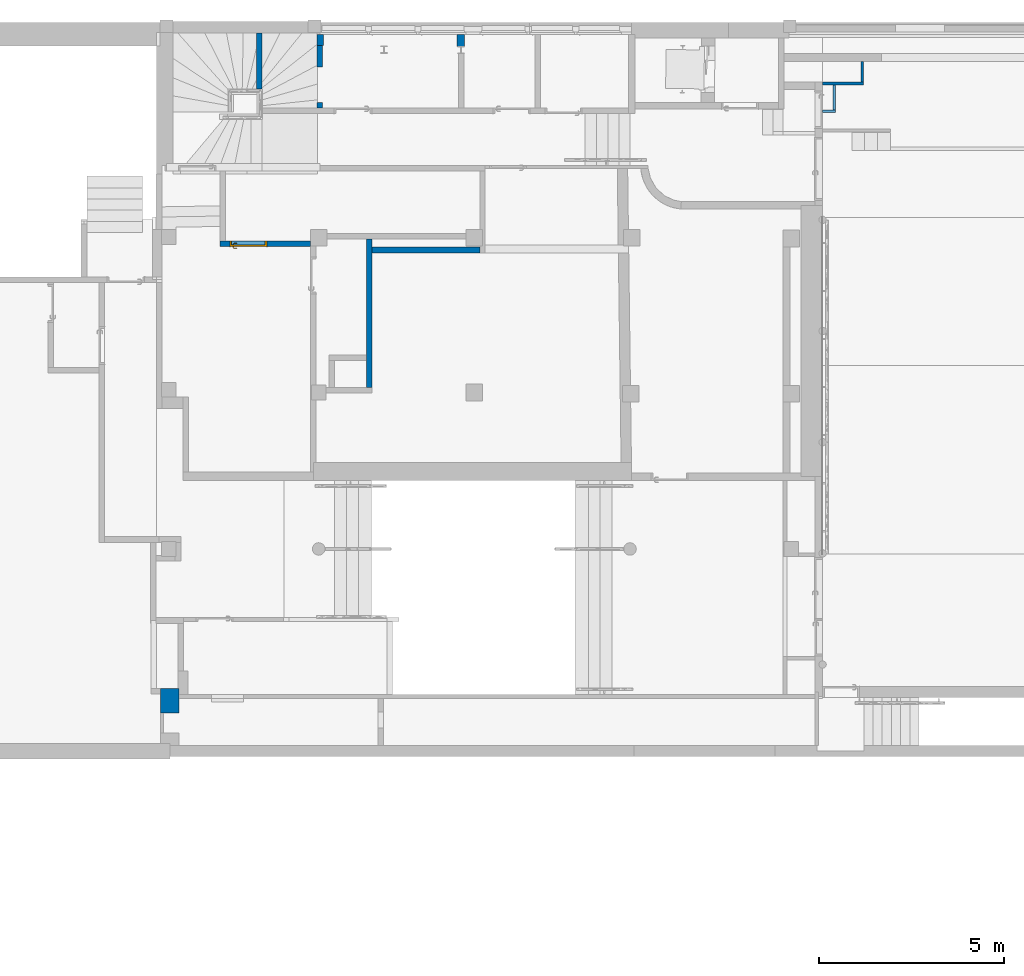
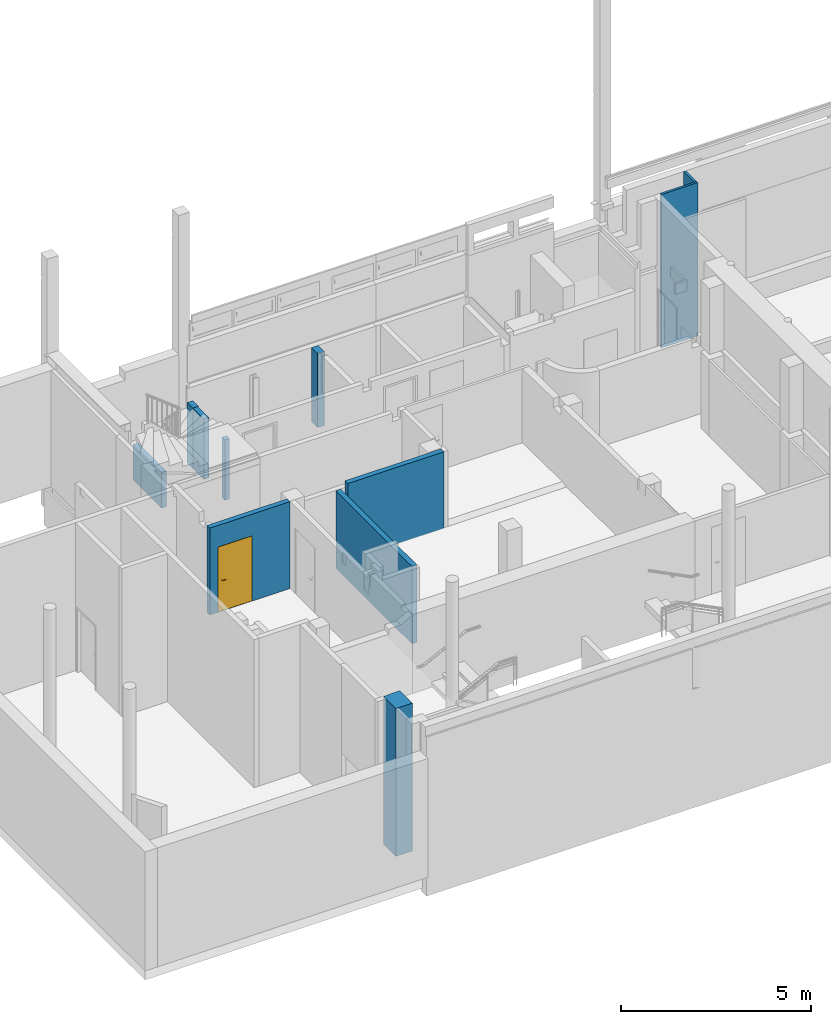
# One storey, part 6 of 39: 13 walls, 1 door, 1 opening.
"""IFC4 building model written with IfcOpenShell, lengths in metres."""

from ifc_helpers import new_model, entity, si_unit, converted_unit, derived_unit, direction, frame, origin, place, context, subcontext, project, spatial, indexed_curve, outline, extrude, polygons, source, transform, mapped, material, material_list, layer, layer_set, constituent, constituent_set, type_object, type_shapes, element, fill, save


model = new_model("IFC4")

# Units and contexts
model_context = context("Model", 3, precision=1e-05, world=origin(), true_north=direction((6.12303176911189e-17, 1.0)))
body_context = subcontext(model_context, "Body", "Model", "MODEL_VIEW")
ifc_project = project(units=[si_unit("LENGTHUNIT", "METRE"), si_unit("AREAUNIT", "SQUARE_METRE"), si_unit("VOLUMEUNIT", "CUBIC_METRE"), converted_unit("PLANEANGLEUNIT", "DEGREE", entity("IfcRatioMeasure", 0.0174532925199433), si_unit("PLANEANGLEUNIT", "RADIAN"), dimensions=[0, 0, 0, 0, 0, 0, 0]), si_unit("MASSUNIT", "GRAM", prefix="KILO"), derived_unit("MASSDENSITYUNIT", [(si_unit("MASSUNIT", "GRAM", prefix="KILO"), 1), (si_unit("LENGTHUNIT", "METRE"), -3)]), derived_unit("MOMENTOFINERTIAUNIT", [(si_unit("LENGTHUNIT", "METRE"), 4)]), si_unit("TIMEUNIT", "SECOND"), si_unit("FREQUENCYUNIT", "HERTZ"), si_unit("THERMODYNAMICTEMPERATUREUNIT", "DEGREE_CELSIUS"), derived_unit("THERMALTRANSMITTANCEUNIT", [(si_unit("MASSUNIT", "GRAM", prefix="KILO"), 1), (si_unit("THERMODYNAMICTEMPERATUREUNIT", "KELVIN"), -1), (si_unit("TIMEUNIT", "SECOND"), -3)]), derived_unit("VOLUMETRICFLOWRATEUNIT", [(si_unit("LENGTHUNIT", "METRE"), 3), (si_unit("TIMEUNIT", "SECOND"), -1)]), si_unit("ELECTRICCURRENTUNIT", "AMPERE"), si_unit("ELECTRICVOLTAGEUNIT", "VOLT"), si_unit("POWERUNIT", "WATT"), si_unit("FORCEUNIT", "NEWTON", prefix="KILO"), si_unit("ILLUMINANCEUNIT", "LUX"), si_unit("LUMINOUSFLUXUNIT", "LUMEN"), si_unit("LUMINOUSINTENSITYUNIT", "CANDELA"), derived_unit("USERDEFINED", [(si_unit("MASSUNIT", "GRAM", prefix="KILO"), -1), (si_unit("LENGTHUNIT", "METRE"), -2), (si_unit("TIMEUNIT", "SECOND"), 3), (si_unit("LUMINOUSFLUXUNIT", "LUMEN"), 1)]), derived_unit("LINEARVELOCITYUNIT", [(si_unit("LENGTHUNIT", "METRE"), 1), (si_unit("TIMEUNIT", "SECOND"), -1)]), si_unit("PRESSUREUNIT", "PASCAL"), derived_unit("USERDEFINED", [(si_unit("LENGTHUNIT", "METRE"), -2), (si_unit("MASSUNIT", "GRAM", prefix="KILO"), 1), (si_unit("TIMEUNIT", "SECOND"), -2)]), derived_unit("LINEARFORCEUNIT", [(si_unit("MASSUNIT", "GRAM", prefix="KILO"), 1), (si_unit("LENGTHUNIT", "METRE"), 1), (si_unit("TIMEUNIT", "SECOND"), -2), (si_unit("LENGTHUNIT", "METRE"), -1)]), derived_unit("PLANARFORCEUNIT", [(si_unit("MASSUNIT", "GRAM", prefix="KILO"), 1), (si_unit("LENGTHUNIT", "METRE"), 1), (si_unit("TIMEUNIT", "SECOND"), -2), (si_unit("LENGTHUNIT", "METRE"), -2)])], contexts=[model_context])

# Site, building, storey
site_placement = place(None, origin())
site = spatial("IfcSite", under=ifc_project, at=site_placement, Name="Default", CompositionType="ELEMENT")
building_placement = place(site_placement, origin())
building = spatial("IfcBuilding", under=site, at=building_placement, Name="HOTEL CONSULAIRE BOULOGNE SUR MER", CompositionType="ELEMENT")
storey_placement = place(building_placement, frame((0.0, 0.0, -5.02343668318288)))
storey = spatial("IfcBuildingStorey", under=building, at=storey_placement, Name="SS3", CompositionType="ELEMENT", Elevation=-5.02343668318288)

# Walls
ifc_material_1 = material(Name="Mur par défaut", Category="Divers")
ifc_layer_1 = layer(ifc_material_1, 0.07, Name="Mur par défaut", Category="Divers")
ifc_layer_set_1 = layer_set([ifc_layer_1], Name="Mur de base:Générique - Int. 70 mm")
wall_type_1 = type_object("IfcWallType", Name="Mur de base:Générique - Int. 70 mm", PredefinedType="NOTDEFINED", material=ifc_layer_set_1)
wall_1_placement = place(storey_placement, frame((12.3592268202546, -11.4576796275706, -0.179999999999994)))
element("IfcWall", 1, at=wall_1_placement, inside=storey, type_object=wall_type_1, material=ifc_layer_set_1, Name="Mur de base:Générique - Int. 70 mm", ObjectType="Mur de base:Générique - Int. 70 mm", PredefinedType="NOTDEFINED", context=body_context, shape_type="SweptSolid", body=[
    extrude(outline(indexed_curve([(1.10852915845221, 0.0350000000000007), (-1.36759053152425e-16, 0.0350000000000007), (1.36759053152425e-16, -0.0350000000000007), (1.10852915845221, -0.0350000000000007), (1.10852915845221, 0.0350000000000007)], self_intersect=False)), origin(), (0.0, 0.0, 1.0), 4.933436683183),
])
wall_2_placement = place(storey_placement, frame((13.4327559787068, -11.4226796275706, -0.179999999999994), z_axis=(0.0, 0.0, 1.0), x_axis=(0.0, 1.0, 0.0)))
element("IfcWall", 2, at=wall_2_placement, inside=storey, type_object=wall_type_1, material=ifc_layer_set_1, Name="Mur de base:Générique - Int. 70 mm", ObjectType="Mur de base:Générique - Int. 70 mm", PredefinedType="NOTDEFINED", context=body_context, shape_type="SweptSolid", body=[
    extrude(outline(indexed_curve([(0.554366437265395, 0.035), (-9.1758414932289e-17, 0.0350000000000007), (9.1758414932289e-17, -0.0350000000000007), (0.554366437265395, -0.0350000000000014), (0.554366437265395, 0.035)], self_intersect=False)), origin(), (0.0, 0.0, 1.0), 4.933436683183),
])
wall_3_placement = place(storey_placement, frame((12.3592268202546, -12.2016796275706, 1.991)))
element("IfcWall", 3, at=wall_3_placement, inside=storey, type_object=wall_type_1, material=ifc_layer_set_1, Name="Mur de base:Générique - Int. 70 mm", ObjectType="Mur de base:Générique - Int. 70 mm", PredefinedType="NOTDEFINED", context=body_context, shape_type="SweptSolid", body=[
    extrude(outline(indexed_curve([(0.354637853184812, 0.0350000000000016), (-8.87078969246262e-17, 0.0350000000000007), (8.87078969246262e-17, -0.0350000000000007), (0.354637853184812, -0.0349999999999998), (0.354637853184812, 0.0350000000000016)], self_intersect=False)), origin(), (0.0, 0.0, 1.0), 0.328999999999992),
])
wall_4_placement = place(storey_placement, frame((12.6788646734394, -12.1666796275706, 1.991), z_axis=(0.0, 0.0, 1.0), x_axis=(0.0, 1.0, 0.0)))
element("IfcWall", 4, at=wall_4_placement, inside=storey, type_object=wall_type_1, material=ifc_layer_set_1, Name="Mur de base:Générique - Int. 70 mm", ObjectType="Mur de base:Générique - Int. 70 mm", PredefinedType="NOTDEFINED", context=body_context, shape_type="SweptSolid", body=[
    extrude(outline(indexed_curve([(0.674000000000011, 0.0350000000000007), (0.0, 0.0350000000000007), (0.0, -0.0350000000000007), (0.674000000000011, -0.0350000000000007), (0.674000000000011, 0.0350000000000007)], self_intersect=False)), origin(), (0.0, 0.0, 1.0), 0.328999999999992),
])
ifc_layer_2 = layer(ifc_material_1, 0.18, Name="Mur par défaut", Category="Divers")
ifc_layer_set_2 = layer_set([ifc_layer_2], Name="Mur de base:Générique - Int.180")
wall_type_2 = type_object("IfcWallType", Name="Mur de base:Générique - Int.180", PredefinedType="NOTDEFINED", material=ifc_layer_set_2)
wall_5_placement = place(storey_placement, frame((-1.18887161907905, -10.43532416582, 0.0800000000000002), z_axis=(0.0, 0.0, 1.0), x_axis=(0.0, 1.0, 0.0)))
element("IfcWall", 5, at=wall_5_placement, inside=storey, type_object=wall_type_2, material=ifc_layer_set_2, Name="Mur de base:Générique - Int.180", ObjectType="Mur de base:Générique - Int.180", PredefinedType="NOTDEFINED", context=body_context, shape_type="SweptSolid", body=[
    extrude(outline(indexed_curve([(0.300999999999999, 0.0900000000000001), (-1.4916926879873e-16, 0.0900000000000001), (1.4916926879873e-16, -0.09), (0.300999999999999, -0.0899999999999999), (0.300999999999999, 0.0900000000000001)], self_intersect=False)), origin(), (0.0, 0.0, 1.0), 1.93999999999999),
])

# Wall, opening, door
ifc_layer_3 = layer(ifc_material_1, 0.15, Name="Mur par défaut", Category="Divers")
ifc_layer_set_3 = layer_set([ifc_layer_3], Name="Mur de base:Générique - Int. 150 mm")
wall_type_3 = type_object("IfcWallType", Name="Mur de base:Générique - Int. 150 mm", PredefinedType="NOTDEFINED", material=ifc_layer_set_3)
wall_6_placement = place(storey_placement, frame((-1.44715893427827, -15.7832334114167, -0.43), z_axis=(0.0, 0.0, 1.0), x_axis=(-1.0, 0.0, 0.0)))
wall_6 = element("IfcWall", 6, at=wall_6_placement, inside=storey, type_object=wall_type_3, material=ifc_layer_set_3, Name="Mur de base:Générique - Int. 150 mm", ObjectType="Mur de base:Générique - Int. 150 mm", PredefinedType="NOTDEFINED", context=body_context, shape_type="Tessellation", body=[
    polygons([(2.446, -0.0750000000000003, 0.0), (2.446, -0.0750000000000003, 2.79499999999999), (2.296, -0.0750000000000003, 2.79499999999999), (0.0066642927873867, -0.0750000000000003, 2.79499999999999), (0.0066642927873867, -0.0750000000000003, 0.0), (2.296, -0.0750000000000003, 0.0), (1.178, -0.0750000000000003, 0.00999999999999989), (1.178, -0.0750000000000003, 2.085), (2.178, -0.0750000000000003, 2.085), (2.178, -0.0750000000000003, 0.00999999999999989), (2.446, 0.0750000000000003, 0.0), (1.34315505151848e-16, 0.0750000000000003, 0.0), (1.34315505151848e-16, 0.0750000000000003, 2.79499999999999), (2.446, 0.0750000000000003, 2.79499999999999), (1.178, 0.0750000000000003, 2.085), (1.178, 0.0750000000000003, 0.00999999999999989), (2.178, 0.0750000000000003, 0.00999999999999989), (2.178, 0.0750000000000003, 2.085), (0.00666429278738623, 0.0576763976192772, 0.0), (1.95681071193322e-16, 0.0576763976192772, 0.0), (1.95681071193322e-16, 0.0576763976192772, 2.79499999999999), (0.00666429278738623, 0.0576763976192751, 2.79499999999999)], [[[5, 6, 1, 2, 3, 4], [8, 9, 10, 7]], [[19, 22, 21, 20]], [[11, 12, 13, 14], [18, 15, 16, 17]], [[6, 5, 19, 20, 12, 11, 1]], [[8, 15, 18, 9]], [[3, 2, 14, 13, 21, 22, 4]], [[7, 10, 17, 16]], [[2, 1, 11, 14]], [[7, 16, 15, 8]], [[9, 18, 17, 10]], [[12, 20, 21, 13]], [[5, 4, 22, 19]]], closed=True),
])
opening_placement = place(wall_6_placement, frame((1.178, -0.0749999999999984, 0.00999999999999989)))
opening = element("IfcOpeningElement", 7, at=opening_placement, cuts=wall_6, Name="Int. Simple:PP0.93x2.04:1", ObjectType="Opening", PredefinedType="OPENING", context=body_context, shape_type="SweptSolid", body=[
    extrude(outline(indexed_curve([(0.0, -2.78698535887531e-30), (2.075, -2.78698535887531e-30), (2.075, 1.0), (0.0, 1.0), (0.0, -2.78698535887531e-30)], self_intersect=False)), frame((0.0, 0.0, 0.0), z_axis=(0.0, 1.0, 0.0), x_axis=(0.0, 0.0, 1.0)), (0.0, 0.0, 1.0), 0.15),
])
ifc_material_2 = material(Name="Finition Peinture - Blanc satiné", Category="Peinture")
ifc_constituent_1 = constituent(ifc_material_2, Name="Finition Peinture - Blanc satiné", Category="Matériaux")
ifc_material_3 = material(Name="Bois - Panneau de porte", Category="Bois")
ifc_constituent_2 = constituent(ifc_material_3, Name="Bois - Panneau de porte", Category="Matériaux")
ifc_material_4 = material(Name="Bois - Cadre de porte", Category="Bois")
ifc_constituent_3 = constituent(ifc_material_4, Name="Bois - Cadre de porte", Category="Matériaux")
ifc_constituent_set = constituent_set(constituents=[ifc_constituent_1, ifc_constituent_2, ifc_constituent_3], Name="MaterialConstituentSet")
ifc_material_list = material_list([ifc_material_4, ifc_material_4, ifc_material_2, ifc_material_3])
door_type = type_object("IfcDoorType", Name="Int. Simple:PP0.93x2.04", OperationType="NOTDEFINED", PredefinedType="DOOR", material=ifc_material_list)
shared_shape = source(origin(), body_context, "Body", "Tessellation", [
    polygons([(0.075000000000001, -0.00500000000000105, 0.870000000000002), (0.0846472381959, -0.00500000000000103, 0.866003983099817), (0.0950000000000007, -0.00500000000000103, 0.86464101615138), (0.105352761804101, -0.00500000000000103, 0.866003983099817), (0.115, -0.00500000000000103, 0.870000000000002), (0.114999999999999, -0.00500000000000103, 1.08), (0.1053527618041, -0.00500000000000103, 1.08399601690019), (0.0949999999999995, -0.00500000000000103, 1.08535898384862), (0.0846472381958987, -0.00500000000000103, 1.08399601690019), (0.0749999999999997, -0.00500000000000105, 1.08), (0.0749999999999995, -1.04902753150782e-15, 0.870000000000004), (0.0749999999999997, -1.04902753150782e-15, 1.08), (0.0846472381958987, -1.04902753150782e-15, 1.08399601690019), (0.0949999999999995, -1.04056763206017e-15, 1.08535898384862), (0.1053527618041, -1.04056763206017e-15, 1.08399601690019), (0.114999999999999, -1.03210773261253e-15, 1.08), (0.115, -1.03210773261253e-15, 0.870000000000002), (0.105352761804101, -1.04056763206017e-15, 0.866003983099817), (0.0950000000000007, -1.04056763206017e-15, 0.86464101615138), (0.0846472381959, -1.04902753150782e-15, 0.866003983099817)], [[[4, 5, 6, 7, 8, 9, 10, 1, 2, 3]], [[15, 16, 17, 18, 19, 20, 11, 12, 13, 14]], [[11, 20, 2, 1]], [[2, 20, 19, 3]], [[19, 18, 4, 3]], [[18, 17, 5, 4]], [[6, 5, 17, 16]], [[16, 15, 7, 6]], [[7, 15, 14, 8]], [[14, 13, 9, 8]], [[13, 12, 10, 9]], [[1, 10, 12, 11]]], closed=True),
    polygons([(0.114999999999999, 0.0399999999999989, 1.08), (0.1053527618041, 0.0399999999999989, 1.08399601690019), (0.0949999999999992, 0.0399999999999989, 1.08535898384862), (0.0846472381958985, 0.0399999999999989, 1.08399601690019), (0.0749999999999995, 0.0399999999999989, 1.08), (0.075000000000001, 0.0399999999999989, 0.870000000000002), (0.0846472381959, 0.0399999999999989, 0.866003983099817), (0.0950000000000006, 0.0399999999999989, 0.86464101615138), (0.105352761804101, 0.0399999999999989, 0.866003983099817), (0.115, 0.0399999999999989, 0.870000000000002), (0.114999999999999, 0.044999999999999, 1.08), (0.115, 0.044999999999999, 0.870000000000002), (0.105352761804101, 0.0449999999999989, 0.866003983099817), (0.0950000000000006, 0.0449999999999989, 0.86464101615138), (0.0846472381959, 0.0449999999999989, 0.866003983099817), (0.0749999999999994, 0.0449999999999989, 0.870000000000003), (0.0749999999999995, 0.0449999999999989, 1.08), (0.0846472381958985, 0.0449999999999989, 1.08399601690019), (0.0949999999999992, 0.0449999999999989, 1.08535898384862), (0.1053527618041, 0.0449999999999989, 1.08399601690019)], [[[9, 10, 1, 2, 3, 4, 5, 6, 7, 8]], [[20, 11, 12, 13, 14, 15, 16, 17, 18, 19]], [[11, 20, 2, 1]], [[2, 20, 19, 3]], [[19, 18, 4, 3]], [[18, 17, 5, 4]], [[6, 5, 17, 16]], [[16, 15, 7, 6]], [[7, 15, 14, 8]], [[14, 13, 9, 8]], [[13, 12, 10, 9]], [[1, 10, 12, 11]]], closed=True),
    polygons([(0.0889999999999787, -0.00500000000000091, 1.007), (0.0929747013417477, -0.00500000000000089, 1.00778044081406), (0.097025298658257, -0.00500000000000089, 1.00778044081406), (0.101000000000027, -0.00500000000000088, 1.00699999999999), (0.101000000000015, -0.00500000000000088, 0.993000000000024), (0.0970252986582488, -0.00500000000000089, 0.992219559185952), (0.0929747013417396, -0.00500000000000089, 0.99221955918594), (0.0889999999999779, -0.00500000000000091, 0.992999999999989), (0.0889999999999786, -0.0326509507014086, 1.007), (0.0929747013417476, -0.0310045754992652, 1.00778044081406), (0.0970252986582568, -0.0293267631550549, 1.00778044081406), (0.101000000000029, -0.0276803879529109, 1.007), (0.101000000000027, -0.0276803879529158, 0.993000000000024), (0.0970252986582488, -0.0293267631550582, 0.992219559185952), (0.0929747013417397, -0.0310045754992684, 0.99221955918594), (0.0889999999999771, -0.0326509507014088, 0.992999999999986), (0.107377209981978, -0.051028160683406, 1.007), (0.109023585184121, -0.0470534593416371, 1.00778044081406), (0.110701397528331, -0.0430028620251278, 1.00778044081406), (0.112347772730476, -0.0390281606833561, 1.007), (0.112347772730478, -0.0390281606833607, 0.993000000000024), (0.110701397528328, -0.0430028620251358, 0.992219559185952), (0.109023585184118, -0.0470534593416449, 0.99221955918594), (0.107377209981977, -0.0510281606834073, 0.992999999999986), (0.195018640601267, -0.0510281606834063, 1.00699999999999), (0.195018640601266, -0.051028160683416, 0.992999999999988), (0.195018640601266, -0.0470534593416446, 0.99221955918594), (0.195018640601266, -0.0430028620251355, 0.992219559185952), (0.195018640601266, -0.0390281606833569, 0.993000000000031), (0.195018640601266, -0.0390281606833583, 1.007), (0.195018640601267, -0.0430028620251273, 1.00778044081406), (0.195018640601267, -0.0470534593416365, 1.00778044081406), (0.147307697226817, -0.0510281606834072, 1.007), (0.152860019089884, -0.045028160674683, 1.0078786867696), (0.15368320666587, -0.039028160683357, 1.007), (0.147307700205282, -0.0510281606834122, 0.992999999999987), (0.152860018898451, -0.0450281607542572, 0.992121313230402), (0.153683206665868, -0.0390281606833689, 0.993000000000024)], [[[2, 3, 4, 5, 6, 7, 8, 1]], [[21, 20, 35, 30, 29, 38]], [[9, 10, 2, 1]], [[10, 18, 19, 11, 3, 2]], [[11, 12, 4, 3]], [[5, 4, 12, 13]], [[26, 27, 28, 29, 30, 31, 32, 25]], [[13, 14, 6, 5]], [[14, 22, 23, 15, 7, 6]], [[15, 16, 8, 7]], [[1, 8, 16, 9]], [[17, 18, 10, 9]], [[19, 20, 12, 11]], [[13, 12, 20, 21]], [[21, 22, 14, 13]], [[23, 24, 16, 15]], [[9, 16, 24, 17]], [[33, 32, 34]], [[25, 32, 33]], [[18, 17, 33]], [[34, 35, 19]], [[20, 19, 35]], [[35, 31, 30]], [[32, 31, 34]], [[31, 35, 34]], [[18, 33, 34]], [[18, 34, 19]], [[38, 28, 37]], [[36, 37, 27]], [[21, 38, 22]], [[38, 29, 28]], [[26, 36, 27]], [[24, 23, 36]], [[36, 23, 37]], [[23, 22, 37]], [[22, 38, 37]], [[27, 37, 28]], [[17, 24, 36, 26, 25, 33]]], closed=True),
    polygons([(0.10100000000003, 0.0449999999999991, 0.993000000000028), (0.101000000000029, 0.0449999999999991, 1.007), (0.0970252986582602, 0.0449999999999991, 1.00778044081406), (0.092974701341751, 0.0449999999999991, 1.00778044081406), (0.0889999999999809, 0.0449999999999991, 1.007), (0.0889999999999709, 0.0449999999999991, 0.992999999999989), (0.0929747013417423, 0.0449999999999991, 0.99221955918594), (0.0970252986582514, 0.0449999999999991, 0.992219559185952), (0.10100000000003, 0.067485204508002, 0.993000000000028), (0.10100000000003, 0.0674852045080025, 1.007), (0.0970252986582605, 0.0691315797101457, 1.00778044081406), (0.0929747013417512, 0.070809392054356, 1.00778044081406), (0.088999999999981, 0.0724557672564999, 1.007), (0.0889999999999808, 0.0724557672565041, 0.992999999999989), (0.092974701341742, 0.0708093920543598, 0.99221955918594), (0.0970252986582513, 0.0691315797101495, 0.992219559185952), (0.112485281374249, 0.0789704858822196, 0.993000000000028), (0.112485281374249, 0.0789704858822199, 1.007), (0.110838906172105, 0.0829451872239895, 1.00778044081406), (0.109161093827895, 0.0869957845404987, 1.00778044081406), (0.107514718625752, 0.090970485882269, 1.007), (0.107514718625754, 0.090970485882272, 0.992999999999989), (0.109161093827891, 0.0869957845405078, 0.99221955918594), (0.110838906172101, 0.0829451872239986, 0.992219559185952), (0.195045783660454, 0.0789704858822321, 0.993000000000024), (0.195045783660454, 0.0829451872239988, 0.992219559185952), (0.195045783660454, 0.086995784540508, 0.99221955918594), (0.195045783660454, 0.0909704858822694, 0.992999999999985), (0.195045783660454, 0.0909704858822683, 1.007), (0.195045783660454, 0.0869957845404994, 1.00778044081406), (0.195045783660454, 0.0829451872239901, 1.00778044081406), (0.195045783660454, 0.0789704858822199, 1.007), (0.147445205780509, 0.0909704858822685, 1.007), (0.152942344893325, 0.0849704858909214, 1.0078786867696), (0.153765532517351, 0.0789704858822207, 1.007), (0.147445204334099, 0.0909704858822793, 0.992999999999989), (0.152942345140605, 0.0849704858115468, 0.992121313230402), (0.153765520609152, 0.0789704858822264, 0.993000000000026)], [[[4, 5, 6, 7, 8, 1, 2, 3]], [[18, 17, 38, 25, 32, 35]], [[2, 1, 9, 10]], [[25, 26, 27, 28, 29, 30, 31, 32]], [[10, 11, 3, 2]], [[11, 19, 20, 12, 4, 3]], [[12, 13, 5, 4]], [[6, 5, 13, 14]], [[14, 15, 7, 6]], [[15, 23, 24, 16, 8, 7]], [[16, 9, 1, 8]], [[10, 9, 17, 18]], [[18, 19, 11, 10]], [[20, 21, 13, 12]], [[14, 13, 21, 22]], [[22, 23, 15, 14]], [[24, 17, 9, 16]], [[35, 31, 34]], [[33, 34, 30]], [[18, 35, 19]], [[35, 32, 31]], [[29, 33, 30]], [[21, 20, 33]], [[33, 20, 34]], [[20, 19, 34]], [[19, 35, 34]], [[30, 34, 31]], [[21, 33, 29, 28, 36, 22]], [[36, 27, 37]], [[28, 27, 36]], [[23, 22, 36]], [[37, 38, 24]], [[17, 24, 38]], [[38, 26, 25]], [[27, 26, 37]], [[26, 38, 37]], [[23, 36, 37]], [[23, 37, 24]]], closed=True),
    polygons([(0.0349999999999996, 0.04, 2.04), (0.965, 0.04, 2.04), (0.965, 0.04, 0.0), (0.0349999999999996, 0.04, 0.0), (0.0349999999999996, 5.07593966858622e-17, 2.04), (0.0349999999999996, 5.07593966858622e-17, 0.0), (0.965, 5.07593966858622e-17, 0.0), (0.965, 5.07593966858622e-17, 2.04)], [[[4, 1, 2, 3]], [[7, 8, 5, 6]], [[2, 1, 5, 8]], [[3, 2, 8, 7]], [[4, 3, 7, 6]], [[1, 4, 6, 5]]], closed=True),
    polygons([(-1.53631773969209e-14, 1.69197988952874e-17, 0.0), (-1.53631773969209e-14, 0.150000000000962, 0.0), (0.0499999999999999, 0.150000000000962, 0.0), (0.0499999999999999, 0.0400000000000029, 0.0), (0.0349999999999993, 0.0400000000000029, 0.0), (0.0349999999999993, 1.69197988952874e-17, 0.0), (-1.51601398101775e-14, 1.69197988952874e-17, 2.07500000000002), (-1.51601398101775e-14, 0.150000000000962, 2.07500000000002), (1.00000000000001, 0.150000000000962, 2.07500000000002), (1.00000000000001, 0.150000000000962, 3.88816484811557e-25), (0.95, 0.150000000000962, 3.59657255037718e-24), (0.95, 0.150000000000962, 2.025), (0.05, 0.150000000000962, 2.025), (0.05, 0.0400000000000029, 2.025), (0.95, 0.0400000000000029, 2.025), (0.95, 0.0400000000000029, 2.24110802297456e-24), (0.965, 0.0400000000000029, -4.78103047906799e-25), (0.965, 0.0400000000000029, 2.04), (0.0349999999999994, 0.0400000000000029, 2.04), (0.0349999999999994, 1.69197988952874e-17, 2.04), (0.965, 1.69197988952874e-17, 2.04), (0.965, 1.69197988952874e-17, -2.84752548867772e-24), (1.00000000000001, 1.69197988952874e-17, -3.95490158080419e-25), (1.00000000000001, 1.69197988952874e-17, 2.07500000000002)], [[[5, 6, 1, 2, 3, 4]], [[11, 10, 23, 22, 17, 16]], [[14, 13, 12, 15]], [[20, 19, 18, 21]], [[2, 1, 7, 8]], [[15, 12, 11, 16]], [[21, 18, 17, 22]], [[3, 2, 8, 9, 10, 11, 12, 13]], [[4, 3, 13, 14]], [[6, 5, 19, 20]], [[9, 24, 23, 10]], [[16, 17, 18, 19, 5, 4, 14, 15]], [[22, 23, 24, 7, 1, 6, 20, 21]], [[8, 7, 24, 9]]], closed=True),
    polygons([(0.0149999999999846, 0.150000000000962, 0.0), (-0.0150000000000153, 0.150000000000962, 0.0), (-0.0150000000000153, 0.155000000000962, 0.0), (0.0149999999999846, 0.155000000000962, 0.0), (0.0149999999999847, 0.150000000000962, 2.06000000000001), (0.98499999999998, 0.150000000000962, 2.06000000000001), (0.98499999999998, 0.150000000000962, -1.80158911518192e-24), (1.01499999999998, 0.150000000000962, -9.00794238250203e-25), (1.01499999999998, 0.150000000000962, 2.09000000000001), (-0.0150000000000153, 0.150000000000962, 2.09000000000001), (-0.0150000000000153, 0.155000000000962, 2.09000000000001), (1.01499999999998, 0.155000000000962, 2.09000000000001), (1.01499999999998, 0.155000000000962, -5.48159974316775e-24), (0.98499999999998, 0.155000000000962, -4.34281663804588e-24), (0.98499999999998, 0.155000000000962, 2.06000000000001), (0.0149999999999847, 0.155000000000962, 2.06000000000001)], [[[1, 2, 3, 4]], [[14, 13, 8, 7]], [[5, 16, 15, 6]], [[7, 8, 9, 10, 2, 1, 5, 6]], [[3, 2, 10, 11]], [[6, 15, 14, 7]], [[4, 3, 11, 12, 13, 14, 15, 16]], [[1, 4, 16, 5]], [[12, 9, 8, 13]], [[11, 10, 9, 12]]], closed=True),
    polygons([(0.0149999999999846, -0.00499999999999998, 0.0), (-0.0150000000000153, -0.00499999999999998, 0.0), (-0.0150000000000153, 1.69197988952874e-17, 0.0), (0.0149999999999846, 1.69197988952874e-17, 0.0), (0.98499999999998, -0.00499999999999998, 5.41433564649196e-16), (0.98499999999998, 1.69197988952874e-17, 5.41433564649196e-16), (1.01499999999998, 1.69197988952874e-17, 5.41433564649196e-16), (1.01499999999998, -0.00499999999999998, 5.41433564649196e-16), (0.0149999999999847, -0.00499999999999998, 2.06000000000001), (0.98499999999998, -0.00499999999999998, 2.06000000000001), (1.01499999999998, -0.00499999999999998, 2.09000000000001), (-0.0150000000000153, -0.00499999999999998, 2.09000000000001), (-0.0150000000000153, 1.69197988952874e-17, 2.09000000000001), (1.01499999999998, 1.69197988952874e-17, 2.09000000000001), (0.98499999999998, 1.69197988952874e-17, 2.06000000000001), (0.0149999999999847, 1.69197988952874e-17, 2.06000000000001)], [[[2, 3, 4, 1]], [[6, 7, 8, 5]], [[9, 16, 15, 10]], [[5, 8, 11, 12, 2, 1, 9, 10]], [[3, 2, 12, 13]], [[10, 15, 6, 5]], [[4, 3, 13, 14, 7, 6, 15, 16]], [[1, 4, 16, 9]], [[14, 11, 8, 7]], [[13, 12, 11, 14]]], closed=True),
])
type_shapes(door_type, [shared_shape])
door_placement = place(opening_placement, frame((1.0, 0.14999999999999, 0.0), z_axis=(0.0, 0.0, 1.0), x_axis=(-1.0, 0.0, 0.0)))
door = element("IfcDoor", 8, at=door_placement, inside=storey, type_object=door_type, material=ifc_constituent_set, Name="Int. Simple:PP0.93x2.04", ObjectType="Int. Simple:PP0.93x2.04", OperationType="NOTDEFINED", OverallHeight=2.075, OverallWidth=1.0, PredefinedType="DOOR", context=body_context, shape_type="MappedRepresentation", body=[
    mapped(shared_shape, transform((0.0, 0.0, 0.0), scale=1.0)),
])
fill(opening, door)

# Walls
wall_7_placement = place(storey_placement, frame((0.207841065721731, -15.9492732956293, 0.0)))
element("IfcWall", 9, at=wall_7_placement, inside=storey, type_object=wall_type_3, material=ifc_layer_set_3, Name="Mur de base:Générique - Int. 150 mm", ObjectType="Mur de base:Générique - Int. 150 mm", PredefinedType="NOTDEFINED", context=body_context, shape_type="SweptSolid", body=[
    extrude(outline(indexed_curve([(2.92021390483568, 0.0750000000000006), (3.93865955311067e-17, 0.0750000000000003), (-3.93865955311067e-17, -0.0750000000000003), (2.92021390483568, -0.0749999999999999), (2.92021390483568, 0.0750000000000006)], self_intersect=False)), origin(), (0.0, 0.0, 1.0), 2.46399047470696),
])
wall_8_placement = place(storey_placement, frame((0.132841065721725, -19.6629027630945, -0.43), z_axis=(0.0, 0.0, 1.0), x_axis=(0.0, 1.0, 0.0)))
element("IfcWall", 10, at=wall_8_placement, inside=storey, type_object=wall_type_3, material=ifc_layer_set_3, Name="Mur de base:Générique - Int. 150 mm", ObjectType="Mur de base:Générique - Int. 150 mm", PredefinedType="NOTDEFINED", context=body_context, shape_type="SweptSolid", body=[
    extrude(outline(indexed_curve([(4.01299295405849, 0.075), (-1.20885681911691e-16, 0.075), (1.20885681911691e-16, -0.075), (4.01299295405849, -0.075), (4.01299295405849, 0.075)], self_intersect=False)), origin(), (0.0, 0.0, 1.0), 2.48999999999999),
])
wall_9_placement = place(storey_placement, frame((-2.83014197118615, -11.6026541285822, 0.0800000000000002), z_axis=(0.0, 0.0, 1.0), x_axis=(0.0, 1.0, 0.0)))
element("IfcWall", 11, at=wall_9_placement, inside=storey, type_object=wall_type_3, material=ifc_layer_set_3, Name="Mur de base:Générique - Int. 150 mm", ObjectType="Mur de base:Générique - Int. 150 mm", PredefinedType="NOTDEFINED", context=body_context, shape_type="SweptSolid", body=[
    extrude(outline(indexed_curve([(1.50232996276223, 0.075), (-1.2336200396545e-16, 0.0749999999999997), (1.2336200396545e-16, -0.0749999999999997), (1.50232996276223, -0.0749999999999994), (1.50232996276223, 0.075)], self_intersect=False)), origin(), (0.0, 0.0, 1.0), 1.14455359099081),
])
wall_10_placement = place(storey_placement, frame((-1.20387161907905, -12.1214663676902, 0.0800000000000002), z_axis=(0.0, 0.0, 1.0), x_axis=(0.0, 1.0, 0.0)))
element("IfcWall", 12, at=wall_10_placement, inside=storey, type_object=wall_type_3, material=ifc_layer_set_3, Name="Mur de base:Générique - Int. 150 mm", ObjectType="Mur de base:Générique - Int. 150 mm", PredefinedType="NOTDEFINED", context=body_context, shape_type="SweptSolid", body=[
    extrude(outline(indexed_curve([(0.156000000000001, 0.075), (-1.24307723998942e-16, 0.075), (1.24307723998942e-16, -0.075), (0.156000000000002, -0.075), (0.156000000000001, 0.075)], self_intersect=False)), origin(), (0.0, 0.0, 1.0), 1.93999999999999),
])
wall_11_placement = place(storey_placement, frame((-1.20387161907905, -11.01732416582, 0.0800000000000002), z_axis=(0.0, 0.0, 1.0), x_axis=(0.0, 1.0, 0.0)))
element("IfcWall", 13, at=wall_11_placement, inside=storey, type_object=wall_type_3, material=ifc_layer_set_3, Name="Mur de base:Générique - Int. 150 mm", ObjectType="Mur de base:Générique - Int. 150 mm", PredefinedType="NOTDEFINED", context=body_context, shape_type="SweptSolid", body=[
    extrude(outline(indexed_curve([(0.582000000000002, 0.075), (-1.24307723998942e-16, 0.0749999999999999), (1.24307723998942e-16, -0.075), (0.582000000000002, -0.0750000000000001), (0.582000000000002, 0.075)], self_intersect=False)), origin(), (0.0, 0.0, 1.0), 1.93999999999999),
])
ifc_layer_4 = layer(ifc_material_1, 0.5, Name="Mur par défaut", Category="Divers")
ifc_layer_set_4 = layer_set([ifc_layer_4], Name="Mur de base:Générique - Int.500")
wall_type_4 = type_object("IfcWallType", Name="Mur de base:Générique - Int.500", PredefinedType="NOTDEFINED", material=ifc_layer_set_4)
wall_12_placement = place(storey_placement, frame((-5.24468938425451, -28.4380671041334, 0.0), z_axis=(0.0, 0.0, 1.0), x_axis=(0.0, 1.0, 0.0)))
element("IfcWall", 14, at=wall_12_placement, inside=storey, type_object=wall_type_4, material=ifc_layer_set_4, Name="Mur de base:Générique - Int.500", ObjectType="Mur de base:Générique - Int.500", PredefinedType="NOTDEFINED", context=body_context, shape_type="Tessellation", body=[
    polygons([(0.0, -0.250000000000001, 0.0), (0.391793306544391, -0.250000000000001, 0.0), (0.49179330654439, -0.250000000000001, 0.0), (0.66279330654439, -0.250000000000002, 0.0), (0.66279330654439, -0.250000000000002, 2.14999999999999), (0.66279330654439, -0.250000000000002, 4.75343668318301), (0.521793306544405, -0.250000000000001, 4.75343668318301), (0.391793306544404, -0.250000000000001, 4.75343668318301), (0.0, -0.250000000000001, 4.75343668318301), (0.662793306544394, 0.249999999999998, 0.0), (0.512793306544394, 0.249999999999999, 0.0), (0.0, 0.249999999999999, 0.0), (0.0, 0.249999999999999, 4.75343668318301), (0.512793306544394, 0.249999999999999, 4.75343668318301), (0.650097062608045, 0.249999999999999, 4.75343668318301), (0.650097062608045, 0.249999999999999, 4.53343668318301), (0.662793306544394, 0.249999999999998, 4.53343668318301), (0.0, 0.169999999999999, 0.0), (0.66279330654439, -0.218410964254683, 0.0), (0.662793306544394, 0.0598187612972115, 4.75343668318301), (0.650097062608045, 0.0598187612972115, 4.75343668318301), (0.0, 0.169999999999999, 4.75343668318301), (0.66279330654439, 0.0598187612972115, 4.53343668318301), (0.650097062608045, 0.0598187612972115, 4.53343668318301)], [[[9, 1, 2, 3, 4, 5, 6, 7, 8]], [[10, 11, 12, 13, 14, 15, 16, 17]], [[20, 23, 24, 21]], [[2, 1, 18, 12, 11, 10, 19, 4, 3]], [[6, 20, 21, 15, 14, 13, 22, 9, 8, 7]], [[23, 17, 16, 24]], [[1, 9, 22, 13, 12, 18]], [[4, 19, 10, 17, 23, 20, 6, 5]], [[16, 15, 21, 24]]], closed=True),
])
ifc_layer_5 = layer(ifc_material_1, 0.2, Name="Mur par défaut", Category="Divers")
ifc_layer_set_5 = layer_set([ifc_layer_5], Name="Mur de base:Générique - Int.200")
wall_type_5 = type_object("IfcWallType", Name="Mur de base:Générique - Int.200", PredefinedType="NOTDEFINED", material=ifc_layer_set_5)
wall_13_placement = place(storey_placement, frame((2.60674675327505, -10.45832416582, 0.0800000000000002), z_axis=(0.0, 0.0, 1.0), x_axis=(0.0, 1.0, 0.0)))
element("IfcWall", 15, at=wall_13_placement, inside=storey, type_object=wall_type_5, material=ifc_layer_set_5, Name="Mur de base:Générique - Int.200", ObjectType="Mur de base:Générique - Int.200", PredefinedType="NOTDEFINED", context=body_context, shape_type="SweptSolid", body=[
    extrude(outline(indexed_curve([(0.324000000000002, 0.1), (-1.47241521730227e-16, 0.1), (1.47241521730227e-16, -0.1), (0.324000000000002, -0.0999999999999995), (0.324000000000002, 0.1)], self_intersect=False)), origin(), (0.0, 0.0, 1.0), 2.37999999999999),
])

save(model, "model.ifc")
